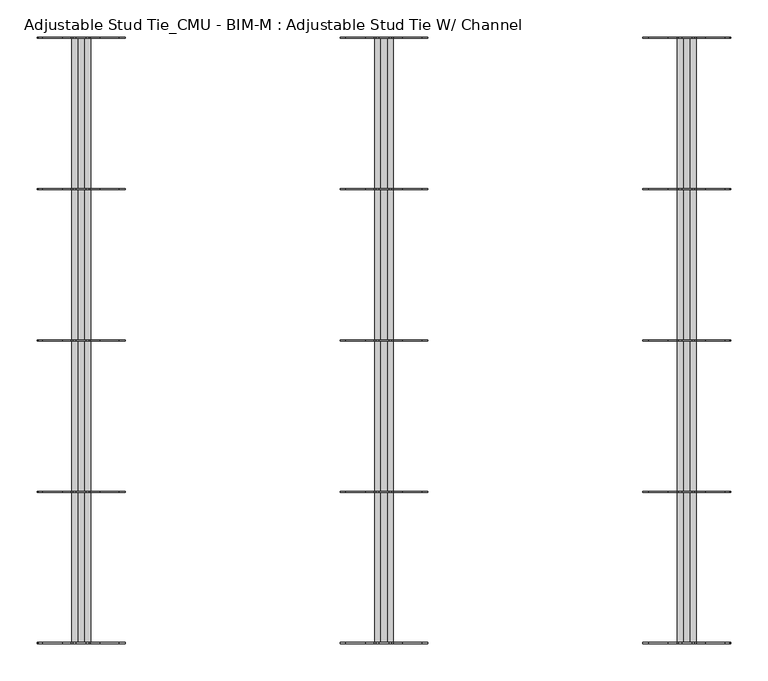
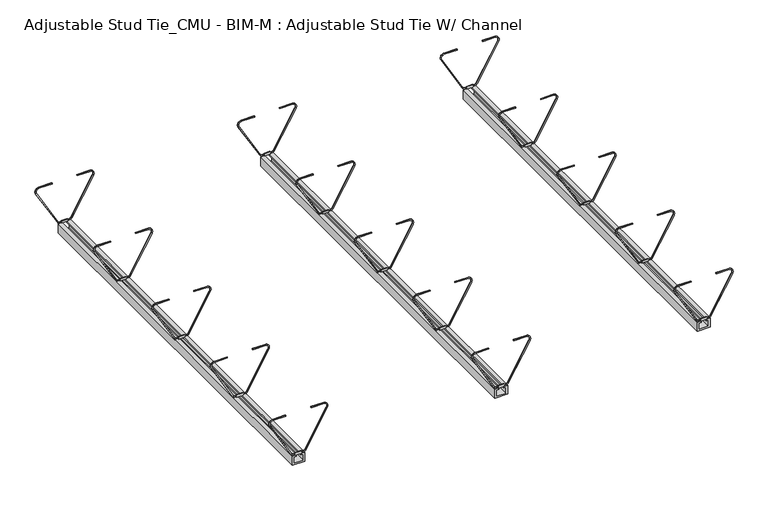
"""IFC4 building model written with IfcOpenShell, lengths in millimetres: proxy geometry, Adjustable Stud Tie_CMU - BIM-M : Adjustable Stud Tie W/ Channel."""

from ifc_helpers import new_model, si_unit, point, frame, frame_2d, origin, place, context, project, spatial, polyline, circle_curve, trimmed, segment, composite_curve, outline, extrude, source, transform, mapped, element, save


def adjustable_stud_tie_cmu_bim_m_adjustable_stud_tie_w_channel_7b78c944(model_context):
    return source(origin(), model_context, "Body", "SweptSolid", [
        extrude(outline(composite_curve([segment(polyline([(-115.6954737, 802.1080064), (-115.6954737, 806.45), (-117.475, 806.45), (-117.475, 819.15), (-115.6954737, 819.15), (-115.6954737, 823.4919936)]), True, "CONTINUOUS"), segment(trimmed(circle_curve(frame_2d((-111.2621335, 823.3975194)), 4.4343467), [point((-115.6954737, 823.4919936))], [point((-113.4793069, 827.2377763))], False, "CARTESIAN"), True, "CONTINUOUS"), segment(polyline([(-113.4793069, 827.2377763), (-38.3089403, 870.6374077)]), True, "CONTINUOUS"), segment(trimmed(circle_curve(frame_2d((-34.2420568, 863.5933588)), 8.133767), [point((-38.3089403, 870.6374077))], [point((-26.1197927, 864.0257847))], False, "CARTESIAN"), True, "CONTINUOUS"), segment(polyline([(-26.1197927, 864.0257847), (-26.1197927, 838.2), (-27.7072927, 838.2), (-27.7072927, 863.9812638)]), True, "CONTINUOUS"), segment(trimmed(circle_curve(frame_2d((-34.2420568, 863.5933588)), 6.546267), [point((-27.7072927, 863.9812638))], [point((-37.5151903, 869.2625923))], True, "CARTESIAN"), True, "CONTINUOUS"), segment(polyline([(-37.5151903, 869.2625923), (-112.6855569, 825.862961)]), True, "CONTINUOUS"), segment(trimmed(circle_curve(frame_2d((-111.2621335, 823.3975194)), 2.8468467), [point((-112.6855569, 825.862961))], [point((-114.1079737, 823.4732143))], True, "CARTESIAN"), True, "CONTINUOUS"), segment(polyline([(-114.1079737, 823.4732143), (-114.1079737, 819.15), (-112.7125, 819.15), (-112.7125, 806.45), (-114.1079737, 806.45), (-114.1079737, 802.1267857)]), True, "CONTINUOUS"), segment(trimmed(circle_curve(frame_2d((-111.2621335, 802.2024806)), 2.8468467), [point((-114.1079737, 802.1267857))], [point((-112.6855569, 799.737039))], True, "CARTESIAN"), True, "CONTINUOUS"), segment(polyline([(-112.6855569, 799.737039), (-37.5151903, 756.3374077)]), True, "CONTINUOUS"), segment(trimmed(circle_curve(frame_2d((-34.2420568, 762.0066412)), 6.546267), [point((-37.5151903, 756.3374077))], [point((-27.7072927, 761.6187362))], True, "CARTESIAN"), True, "CONTINUOUS"), segment(polyline([(-27.7072927, 761.6187362), (-27.7072927, 787.4), (-26.1197927, 787.4), (-26.1197927, 761.5742153)]), True, "CONTINUOUS"), segment(trimmed(circle_curve(frame_2d((-34.2420568, 762.0066412)), 8.133767), [point((-26.1197927, 761.5742153))], [point((-38.3089403, 754.9625923))], False, "CARTESIAN"), True, "CONTINUOUS"), segment(polyline([(-38.3089403, 754.9625923), (-113.4793069, 798.3622237)]), True, "CONTINUOUS"), segment(trimmed(circle_curve(frame_2d((-111.2621335, 802.2024806)), 4.4343467), [point((-113.4793069, 798.3622237))], [point((-115.6954737, 802.1080064))], False, "CARTESIAN"), True, "CONTINUOUS")], self_intersect=False)), frame((0.0, 812.8, 0.0), z_axis=(0.0, 1.0, 0.0), x_axis=(0.0, 0.0, 1.0)), (0.0, 0.0, 1.0), 1.5875),
        extrude(outline(composite_curve([segment(polyline([(-115.6954737, 802.1080064), (-115.6954737, 806.45), (-117.475, 806.45), (-117.475, 819.15), (-115.6954737, 819.15), (-115.6954737, 823.4919936)]), True, "CONTINUOUS"), segment(trimmed(circle_curve(frame_2d((-111.2621335, 823.3975194)), 4.4343467), [point((-115.6954737, 823.4919936))], [point((-113.4793069, 827.2377763))], False, "CARTESIAN"), True, "CONTINUOUS"), segment(polyline([(-113.4793069, 827.2377763), (-38.3089403, 870.6374077)]), True, "CONTINUOUS"), segment(trimmed(circle_curve(frame_2d((-34.2420568, 863.5933588)), 8.133767), [point((-38.3089403, 870.6374077))], [point((-26.1197927, 864.0257847))], False, "CARTESIAN"), True, "CONTINUOUS"), segment(polyline([(-26.1197927, 864.0257847), (-26.1197927, 838.2), (-27.7072927, 838.2), (-27.7072927, 863.9812638)]), True, "CONTINUOUS"), segment(trimmed(circle_curve(frame_2d((-34.2420568, 863.5933588)), 6.546267), [point((-27.7072927, 863.9812638))], [point((-37.5151903, 869.2625923))], True, "CARTESIAN"), True, "CONTINUOUS"), segment(polyline([(-37.5151903, 869.2625923), (-112.6855569, 825.862961)]), True, "CONTINUOUS"), segment(trimmed(circle_curve(frame_2d((-111.2621335, 823.3975194)), 2.8468467), [point((-112.6855569, 825.862961))], [point((-114.1079737, 823.4732143))], True, "CARTESIAN"), True, "CONTINUOUS"), segment(polyline([(-114.1079737, 823.4732143), (-114.1079737, 819.15), (-112.7125, 819.15), (-112.7125, 806.45), (-114.1079737, 806.45), (-114.1079737, 802.1267857)]), True, "CONTINUOUS"), segment(trimmed(circle_curve(frame_2d((-111.2621335, 802.2024806)), 2.8468467), [point((-114.1079737, 802.1267857))], [point((-112.6855569, 799.737039))], True, "CARTESIAN"), True, "CONTINUOUS"), segment(polyline([(-112.6855569, 799.737039), (-37.5151903, 756.3374077)]), True, "CONTINUOUS"), segment(trimmed(circle_curve(frame_2d((-34.2420568, 762.0066412)), 6.546267), [point((-37.5151903, 756.3374077))], [point((-27.7072927, 761.6187362))], True, "CARTESIAN"), True, "CONTINUOUS"), segment(polyline([(-27.7072927, 761.6187362), (-27.7072927, 787.4), (-26.1197927, 787.4), (-26.1197927, 761.5742153)]), True, "CONTINUOUS"), segment(trimmed(circle_curve(frame_2d((-34.2420568, 762.0066412)), 8.133767), [point((-26.1197927, 761.5742153))], [point((-38.3089403, 754.9625923))], False, "CARTESIAN"), True, "CONTINUOUS"), segment(polyline([(-38.3089403, 754.9625923), (-113.4793069, 798.3622237)]), True, "CONTINUOUS"), segment(trimmed(circle_curve(frame_2d((-111.2621335, 802.2024806)), 4.4343467), [point((-113.4793069, 798.3622237))], [point((-115.6954737, 802.1080064))], False, "CARTESIAN"), True, "CONTINUOUS")], self_intersect=False)), frame((0.0, 609.6, 0.0), z_axis=(0.0, 1.0, 0.0), x_axis=(0.0, 0.0, 1.0)), (0.0, 0.0, 1.0), 1.5875),
        extrude(outline(composite_curve([segment(polyline([(-115.6954737, 802.1080064), (-115.6954737, 806.45), (-117.475, 806.45), (-117.475, 819.15), (-115.6954737, 819.15), (-115.6954737, 823.4919936)]), True, "CONTINUOUS"), segment(trimmed(circle_curve(frame_2d((-111.2621335, 823.3975194)), 4.4343467), [point((-115.6954737, 823.4919936))], [point((-113.4793069, 827.2377763))], False, "CARTESIAN"), True, "CONTINUOUS"), segment(polyline([(-113.4793069, 827.2377763), (-38.3089403, 870.6374077)]), True, "CONTINUOUS"), segment(trimmed(circle_curve(frame_2d((-34.2420568, 863.5933588)), 8.133767), [point((-38.3089403, 870.6374077))], [point((-26.1197927, 864.0257847))], False, "CARTESIAN"), True, "CONTINUOUS"), segment(polyline([(-26.1197927, 864.0257847), (-26.1197927, 838.2), (-27.7072927, 838.2), (-27.7072927, 863.9812638)]), True, "CONTINUOUS"), segment(trimmed(circle_curve(frame_2d((-34.2420568, 863.5933588)), 6.546267), [point((-27.7072927, 863.9812638))], [point((-37.5151903, 869.2625923))], True, "CARTESIAN"), True, "CONTINUOUS"), segment(polyline([(-37.5151903, 869.2625923), (-112.6855569, 825.862961)]), True, "CONTINUOUS"), segment(trimmed(circle_curve(frame_2d((-111.2621335, 823.3975194)), 2.8468467), [point((-112.6855569, 825.862961))], [point((-114.1079737, 823.4732143))], True, "CARTESIAN"), True, "CONTINUOUS"), segment(polyline([(-114.1079737, 823.4732143), (-114.1079737, 819.15), (-112.7125, 819.15), (-112.7125, 806.45), (-114.1079737, 806.45), (-114.1079737, 802.1267857)]), True, "CONTINUOUS"), segment(trimmed(circle_curve(frame_2d((-111.2621335, 802.2024806)), 2.8468467), [point((-114.1079737, 802.1267857))], [point((-112.6855569, 799.737039))], True, "CARTESIAN"), True, "CONTINUOUS"), segment(polyline([(-112.6855569, 799.737039), (-37.5151903, 756.3374077)]), True, "CONTINUOUS"), segment(trimmed(circle_curve(frame_2d((-34.2420568, 762.0066412)), 6.546267), [point((-37.5151903, 756.3374077))], [point((-27.7072927, 761.6187362))], True, "CARTESIAN"), True, "CONTINUOUS"), segment(polyline([(-27.7072927, 761.6187362), (-27.7072927, 787.4), (-26.1197927, 787.4), (-26.1197927, 761.5742153)]), True, "CONTINUOUS"), segment(trimmed(circle_curve(frame_2d((-34.2420568, 762.0066412)), 8.133767), [point((-26.1197927, 761.5742153))], [point((-38.3089403, 754.9625923))], False, "CARTESIAN"), True, "CONTINUOUS"), segment(polyline([(-38.3089403, 754.9625923), (-113.4793069, 798.3622237)]), True, "CONTINUOUS"), segment(trimmed(circle_curve(frame_2d((-111.2621335, 802.2024806)), 4.4343467), [point((-113.4793069, 798.3622237))], [point((-115.6954737, 802.1080064))], False, "CARTESIAN"), True, "CONTINUOUS")], self_intersect=False)), frame((0.0, 406.4, 0.0), z_axis=(0.0, 1.0, 0.0), x_axis=(0.0, 0.0, 1.0)), (0.0, 0.0, 1.0), 1.5875),
        extrude(outline(composite_curve([segment(polyline([(-115.6954737, 802.1080064), (-115.6954737, 806.45), (-117.475, 806.45), (-117.475, 819.15), (-115.6954737, 819.15), (-115.6954737, 823.4919936)]), True, "CONTINUOUS"), segment(trimmed(circle_curve(frame_2d((-111.2621335, 823.3975194)), 4.4343467), [point((-115.6954737, 823.4919936))], [point((-113.4793069, 827.2377763))], False, "CARTESIAN"), True, "CONTINUOUS"), segment(polyline([(-113.4793069, 827.2377763), (-38.3089403, 870.6374077)]), True, "CONTINUOUS"), segment(trimmed(circle_curve(frame_2d((-34.2420568, 863.5933588)), 8.133767), [point((-38.3089403, 870.6374077))], [point((-26.1197927, 864.0257847))], False, "CARTESIAN"), True, "CONTINUOUS"), segment(polyline([(-26.1197927, 864.0257847), (-26.1197927, 838.2), (-27.7072927, 838.2), (-27.7072927, 863.9812638)]), True, "CONTINUOUS"), segment(trimmed(circle_curve(frame_2d((-34.2420568, 863.5933588)), 6.546267), [point((-27.7072927, 863.9812638))], [point((-37.5151903, 869.2625923))], True, "CARTESIAN"), True, "CONTINUOUS"), segment(polyline([(-37.5151903, 869.2625923), (-112.6855569, 825.862961)]), True, "CONTINUOUS"), segment(trimmed(circle_curve(frame_2d((-111.2621335, 823.3975194)), 2.8468467), [point((-112.6855569, 825.862961))], [point((-114.1079737, 823.4732143))], True, "CARTESIAN"), True, "CONTINUOUS"), segment(polyline([(-114.1079737, 823.4732143), (-114.1079737, 819.15), (-112.7125, 819.15), (-112.7125, 806.45), (-114.1079737, 806.45), (-114.1079737, 802.1267857)]), True, "CONTINUOUS"), segment(trimmed(circle_curve(frame_2d((-111.2621335, 802.2024806)), 2.8468467), [point((-114.1079737, 802.1267857))], [point((-112.6855569, 799.737039))], True, "CARTESIAN"), True, "CONTINUOUS"), segment(polyline([(-112.6855569, 799.737039), (-37.5151903, 756.3374077)]), True, "CONTINUOUS"), segment(trimmed(circle_curve(frame_2d((-34.2420568, 762.0066412)), 6.546267), [point((-37.5151903, 756.3374077))], [point((-27.7072927, 761.6187362))], True, "CARTESIAN"), True, "CONTINUOUS"), segment(polyline([(-27.7072927, 761.6187362), (-27.7072927, 787.4), (-26.1197927, 787.4), (-26.1197927, 761.5742153)]), True, "CONTINUOUS"), segment(trimmed(circle_curve(frame_2d((-34.2420568, 762.0066412)), 8.133767), [point((-26.1197927, 761.5742153))], [point((-38.3089403, 754.9625923))], False, "CARTESIAN"), True, "CONTINUOUS"), segment(polyline([(-38.3089403, 754.9625923), (-113.4793069, 798.3622237)]), True, "CONTINUOUS"), segment(trimmed(circle_curve(frame_2d((-111.2621335, 802.2024806)), 4.4343467), [point((-113.4793069, 798.3622237))], [point((-115.6954737, 802.1080064))], False, "CARTESIAN"), True, "CONTINUOUS")], self_intersect=False)), frame((0.0, 203.2, 0.0), z_axis=(0.0, 1.0, 0.0), x_axis=(0.0, 0.0, 1.0)), (0.0, 0.0, 1.0), 1.5875),
        extrude(outline(composite_curve([segment(polyline([(-115.6954737, 802.1080064), (-115.6954737, 806.45), (-117.475, 806.45), (-117.475, 819.15), (-115.6954737, 819.15), (-115.6954737, 823.4919936)]), True, "CONTINUOUS"), segment(trimmed(circle_curve(frame_2d((-111.2621335, 823.3975194)), 4.4343467), [point((-115.6954737, 823.4919936))], [point((-113.4793069, 827.2377763))], False, "CARTESIAN"), True, "CONTINUOUS"), segment(polyline([(-113.4793069, 827.2377763), (-38.3089403, 870.6374077)]), True, "CONTINUOUS"), segment(trimmed(circle_curve(frame_2d((-34.2420568, 863.5933588)), 8.133767), [point((-38.3089403, 870.6374077))], [point((-26.1197927, 864.0257847))], False, "CARTESIAN"), True, "CONTINUOUS"), segment(polyline([(-26.1197927, 864.0257847), (-26.1197927, 838.2), (-27.7072927, 838.2), (-27.7072927, 863.9812638)]), True, "CONTINUOUS"), segment(trimmed(circle_curve(frame_2d((-34.2420568, 863.5933588)), 6.546267), [point((-27.7072927, 863.9812638))], [point((-37.5151903, 869.2625923))], True, "CARTESIAN"), True, "CONTINUOUS"), segment(polyline([(-37.5151903, 869.2625923), (-112.6855569, 825.862961)]), True, "CONTINUOUS"), segment(trimmed(circle_curve(frame_2d((-111.2621335, 823.3975194)), 2.8468467), [point((-112.6855569, 825.862961))], [point((-114.1079737, 823.4732143))], True, "CARTESIAN"), True, "CONTINUOUS"), segment(polyline([(-114.1079737, 823.4732143), (-114.1079737, 819.15), (-112.7125, 819.15), (-112.7125, 806.45), (-114.1079737, 806.45), (-114.1079737, 802.1267857)]), True, "CONTINUOUS"), segment(trimmed(circle_curve(frame_2d((-111.2621335, 802.2024806)), 2.8468467), [point((-114.1079737, 802.1267857))], [point((-112.6855569, 799.737039))], True, "CARTESIAN"), True, "CONTINUOUS"), segment(polyline([(-112.6855569, 799.737039), (-37.5151903, 756.3374077)]), True, "CONTINUOUS"), segment(trimmed(circle_curve(frame_2d((-34.2420568, 762.0066412)), 6.546267), [point((-37.5151903, 756.3374077))], [point((-27.7072927, 761.6187362))], True, "CARTESIAN"), True, "CONTINUOUS"), segment(polyline([(-27.7072927, 761.6187362), (-27.7072927, 787.4), (-26.1197927, 787.4), (-26.1197927, 761.5742153)]), True, "CONTINUOUS"), segment(trimmed(circle_curve(frame_2d((-34.2420568, 762.0066412)), 8.133767), [point((-26.1197927, 761.5742153))], [point((-38.3089403, 754.9625923))], False, "CARTESIAN"), True, "CONTINUOUS"), segment(polyline([(-38.3089403, 754.9625923), (-113.4793069, 798.3622237)]), True, "CONTINUOUS"), segment(trimmed(circle_curve(frame_2d((-111.2621335, 802.2024806)), 4.4343467), [point((-113.4793069, 798.3622237))], [point((-115.6954737, 802.1080064))], False, "CARTESIAN"), True, "CONTINUOUS")], self_intersect=False)), frame((0.0, 0.0, 0.0), z_axis=(0.0, 1.0, 0.0), x_axis=(0.0, 0.0, 1.0)), (0.0, 0.0, 1.0), 1.5875),
        extrude(outline(polyline([(-136.525, 825.5), (-117.475, 825.5), (-117.475, 817.5669306), (-120.65, 817.5669306), (-120.65, 822.325), (-133.35, 822.325), (-133.35, 803.275), (-120.65, 803.275), (-120.65, 808.0330694), (-117.475, 808.0330694), (-117.475, 800.1), (-136.525, 800.1), (-136.525, 825.5)])), frame((0.0, 0.0, 0.0), z_axis=(0.0, 1.0, 0.0), x_axis=(0.0, 0.0, 1.0)), (0.0, 0.0, 1.0), 813.59375),
        extrude(outline(composite_curve([segment(polyline([(-115.6954737, 395.7080064), (-115.6954737, 400.05), (-117.475, 400.05), (-117.475, 412.75), (-115.6954737, 412.75), (-115.6954737, 417.0919936)]), True, "CONTINUOUS"), segment(trimmed(circle_curve(frame_2d((-111.2621335, 416.9975194)), 4.4343467), [point((-115.6954737, 417.0919936))], [point((-113.4793069, 420.8377763))], False, "CARTESIAN"), True, "CONTINUOUS"), segment(polyline([(-113.4793069, 420.8377763), (-38.3089403, 464.2374077)]), True, "CONTINUOUS"), segment(trimmed(circle_curve(frame_2d((-34.2420568, 457.1933588)), 8.133767), [point((-38.3089403, 464.2374077))], [point((-26.1197927, 457.6257847))], False, "CARTESIAN"), True, "CONTINUOUS"), segment(polyline([(-26.1197927, 457.6257847), (-26.1197927, 431.8), (-27.7072927, 431.8), (-27.7072927, 457.5812638)]), True, "CONTINUOUS"), segment(trimmed(circle_curve(frame_2d((-34.2420568, 457.1933588)), 6.546267), [point((-27.7072927, 457.5812638))], [point((-37.5151903, 462.8625923))], True, "CARTESIAN"), True, "CONTINUOUS"), segment(polyline([(-37.5151903, 462.8625923), (-112.6855569, 419.462961)]), True, "CONTINUOUS"), segment(trimmed(circle_curve(frame_2d((-111.2621335, 416.9975194)), 2.8468467), [point((-112.6855569, 419.462961))], [point((-114.1079737, 417.0732143))], True, "CARTESIAN"), True, "CONTINUOUS"), segment(polyline([(-114.1079737, 417.0732143), (-114.1079737, 412.75), (-112.7125, 412.75), (-112.7125, 400.05), (-114.1079737, 400.05), (-114.1079737, 395.7267857)]), True, "CONTINUOUS"), segment(trimmed(circle_curve(frame_2d((-111.2621335, 395.8024806)), 2.8468467), [point((-114.1079737, 395.7267857))], [point((-112.6855569, 393.337039))], True, "CARTESIAN"), True, "CONTINUOUS"), segment(polyline([(-112.6855569, 393.337039), (-37.5151903, 349.9374077)]), True, "CONTINUOUS"), segment(trimmed(circle_curve(frame_2d((-34.2420568, 355.6066412)), 6.546267), [point((-37.5151903, 349.9374077))], [point((-27.7072927, 355.2187362))], True, "CARTESIAN"), True, "CONTINUOUS"), segment(polyline([(-27.7072927, 355.2187362), (-27.7072927, 381.0), (-26.1197927, 381.0), (-26.1197927, 355.1742153)]), True, "CONTINUOUS"), segment(trimmed(circle_curve(frame_2d((-34.2420568, 355.6066412)), 8.133767), [point((-26.1197927, 355.1742153))], [point((-38.3089403, 348.5625923))], False, "CARTESIAN"), True, "CONTINUOUS"), segment(polyline([(-38.3089403, 348.5625923), (-113.4793069, 391.9622237)]), True, "CONTINUOUS"), segment(trimmed(circle_curve(frame_2d((-111.2621335, 395.8024806)), 4.4343467), [point((-113.4793069, 391.9622237))], [point((-115.6954737, 395.7080064))], False, "CARTESIAN"), True, "CONTINUOUS")], self_intersect=False)), frame((0.0, 812.8, 0.0), z_axis=(0.0, 1.0, 0.0), x_axis=(0.0, 0.0, 1.0)), (0.0, 0.0, 1.0), 1.5875),
        extrude(outline(composite_curve([segment(polyline([(-115.6954737, 395.7080064), (-115.6954737, 400.05), (-117.475, 400.05), (-117.475, 412.75), (-115.6954737, 412.75), (-115.6954737, 417.0919936)]), True, "CONTINUOUS"), segment(trimmed(circle_curve(frame_2d((-111.2621335, 416.9975194)), 4.4343467), [point((-115.6954737, 417.0919936))], [point((-113.4793069, 420.8377763))], False, "CARTESIAN"), True, "CONTINUOUS"), segment(polyline([(-113.4793069, 420.8377763), (-38.3089403, 464.2374077)]), True, "CONTINUOUS"), segment(trimmed(circle_curve(frame_2d((-34.2420568, 457.1933588)), 8.133767), [point((-38.3089403, 464.2374077))], [point((-26.1197927, 457.6257847))], False, "CARTESIAN"), True, "CONTINUOUS"), segment(polyline([(-26.1197927, 457.6257847), (-26.1197927, 431.8), (-27.7072927, 431.8), (-27.7072927, 457.5812638)]), True, "CONTINUOUS"), segment(trimmed(circle_curve(frame_2d((-34.2420568, 457.1933588)), 6.546267), [point((-27.7072927, 457.5812638))], [point((-37.5151903, 462.8625923))], True, "CARTESIAN"), True, "CONTINUOUS"), segment(polyline([(-37.5151903, 462.8625923), (-112.6855569, 419.462961)]), True, "CONTINUOUS"), segment(trimmed(circle_curve(frame_2d((-111.2621335, 416.9975194)), 2.8468467), [point((-112.6855569, 419.462961))], [point((-114.1079737, 417.0732143))], True, "CARTESIAN"), True, "CONTINUOUS"), segment(polyline([(-114.1079737, 417.0732143), (-114.1079737, 412.75), (-112.7125, 412.75), (-112.7125, 400.05), (-114.1079737, 400.05), (-114.1079737, 395.7267857)]), True, "CONTINUOUS"), segment(trimmed(circle_curve(frame_2d((-111.2621335, 395.8024806)), 2.8468467), [point((-114.1079737, 395.7267857))], [point((-112.6855569, 393.337039))], True, "CARTESIAN"), True, "CONTINUOUS"), segment(polyline([(-112.6855569, 393.337039), (-37.5151903, 349.9374077)]), True, "CONTINUOUS"), segment(trimmed(circle_curve(frame_2d((-34.2420568, 355.6066412)), 6.546267), [point((-37.5151903, 349.9374077))], [point((-27.7072927, 355.2187362))], True, "CARTESIAN"), True, "CONTINUOUS"), segment(polyline([(-27.7072927, 355.2187362), (-27.7072927, 381.0), (-26.1197927, 381.0), (-26.1197927, 355.1742153)]), True, "CONTINUOUS"), segment(trimmed(circle_curve(frame_2d((-34.2420568, 355.6066412)), 8.133767), [point((-26.1197927, 355.1742153))], [point((-38.3089403, 348.5625923))], False, "CARTESIAN"), True, "CONTINUOUS"), segment(polyline([(-38.3089403, 348.5625923), (-113.4793069, 391.9622237)]), True, "CONTINUOUS"), segment(trimmed(circle_curve(frame_2d((-111.2621335, 395.8024806)), 4.4343467), [point((-113.4793069, 391.9622237))], [point((-115.6954737, 395.7080064))], False, "CARTESIAN"), True, "CONTINUOUS")], self_intersect=False)), frame((0.0, 609.6, 0.0), z_axis=(0.0, 1.0, 0.0), x_axis=(0.0, 0.0, 1.0)), (0.0, 0.0, 1.0), 1.5875),
        extrude(outline(composite_curve([segment(polyline([(-115.6954737, 395.7080064), (-115.6954737, 400.05), (-117.475, 400.05), (-117.475, 412.75), (-115.6954737, 412.75), (-115.6954737, 417.0919936)]), True, "CONTINUOUS"), segment(trimmed(circle_curve(frame_2d((-111.2621335, 416.9975194)), 4.4343467), [point((-115.6954737, 417.0919936))], [point((-113.4793069, 420.8377763))], False, "CARTESIAN"), True, "CONTINUOUS"), segment(polyline([(-113.4793069, 420.8377763), (-38.3089403, 464.2374077)]), True, "CONTINUOUS"), segment(trimmed(circle_curve(frame_2d((-34.2420568, 457.1933588)), 8.133767), [point((-38.3089403, 464.2374077))], [point((-26.1197927, 457.6257847))], False, "CARTESIAN"), True, "CONTINUOUS"), segment(polyline([(-26.1197927, 457.6257847), (-26.1197927, 431.8), (-27.7072927, 431.8), (-27.7072927, 457.5812638)]), True, "CONTINUOUS"), segment(trimmed(circle_curve(frame_2d((-34.2420568, 457.1933588)), 6.546267), [point((-27.7072927, 457.5812638))], [point((-37.5151903, 462.8625923))], True, "CARTESIAN"), True, "CONTINUOUS"), segment(polyline([(-37.5151903, 462.8625923), (-112.6855569, 419.462961)]), True, "CONTINUOUS"), segment(trimmed(circle_curve(frame_2d((-111.2621335, 416.9975194)), 2.8468467), [point((-112.6855569, 419.462961))], [point((-114.1079737, 417.0732143))], True, "CARTESIAN"), True, "CONTINUOUS"), segment(polyline([(-114.1079737, 417.0732143), (-114.1079737, 412.75), (-112.7125, 412.75), (-112.7125, 400.05), (-114.1079737, 400.05), (-114.1079737, 395.7267857)]), True, "CONTINUOUS"), segment(trimmed(circle_curve(frame_2d((-111.2621335, 395.8024806)), 2.8468467), [point((-114.1079737, 395.7267857))], [point((-112.6855569, 393.337039))], True, "CARTESIAN"), True, "CONTINUOUS"), segment(polyline([(-112.6855569, 393.337039), (-37.5151903, 349.9374077)]), True, "CONTINUOUS"), segment(trimmed(circle_curve(frame_2d((-34.2420568, 355.6066412)), 6.546267), [point((-37.5151903, 349.9374077))], [point((-27.7072927, 355.2187362))], True, "CARTESIAN"), True, "CONTINUOUS"), segment(polyline([(-27.7072927, 355.2187362), (-27.7072927, 381.0), (-26.1197927, 381.0), (-26.1197927, 355.1742153)]), True, "CONTINUOUS"), segment(trimmed(circle_curve(frame_2d((-34.2420568, 355.6066412)), 8.133767), [point((-26.1197927, 355.1742153))], [point((-38.3089403, 348.5625923))], False, "CARTESIAN"), True, "CONTINUOUS"), segment(polyline([(-38.3089403, 348.5625923), (-113.4793069, 391.9622237)]), True, "CONTINUOUS"), segment(trimmed(circle_curve(frame_2d((-111.2621335, 395.8024806)), 4.4343467), [point((-113.4793069, 391.9622237))], [point((-115.6954737, 395.7080064))], False, "CARTESIAN"), True, "CONTINUOUS")], self_intersect=False)), frame((0.0, 406.4, 0.0), z_axis=(0.0, 1.0, 0.0), x_axis=(0.0, 0.0, 1.0)), (0.0, 0.0, 1.0), 1.5875),
        extrude(outline(composite_curve([segment(polyline([(-115.6954737, 395.7080064), (-115.6954737, 400.05), (-117.475, 400.05), (-117.475, 412.75), (-115.6954737, 412.75), (-115.6954737, 417.0919936)]), True, "CONTINUOUS"), segment(trimmed(circle_curve(frame_2d((-111.2621335, 416.9975194)), 4.4343467), [point((-115.6954737, 417.0919936))], [point((-113.4793069, 420.8377763))], False, "CARTESIAN"), True, "CONTINUOUS"), segment(polyline([(-113.4793069, 420.8377763), (-38.3089403, 464.2374077)]), True, "CONTINUOUS"), segment(trimmed(circle_curve(frame_2d((-34.2420568, 457.1933588)), 8.133767), [point((-38.3089403, 464.2374077))], [point((-26.1197927, 457.6257847))], False, "CARTESIAN"), True, "CONTINUOUS"), segment(polyline([(-26.1197927, 457.6257847), (-26.1197927, 431.8), (-27.7072927, 431.8), (-27.7072927, 457.5812638)]), True, "CONTINUOUS"), segment(trimmed(circle_curve(frame_2d((-34.2420568, 457.1933588)), 6.546267), [point((-27.7072927, 457.5812638))], [point((-37.5151903, 462.8625923))], True, "CARTESIAN"), True, "CONTINUOUS"), segment(polyline([(-37.5151903, 462.8625923), (-112.6855569, 419.462961)]), True, "CONTINUOUS"), segment(trimmed(circle_curve(frame_2d((-111.2621335, 416.9975194)), 2.8468467), [point((-112.6855569, 419.462961))], [point((-114.1079737, 417.0732143))], True, "CARTESIAN"), True, "CONTINUOUS"), segment(polyline([(-114.1079737, 417.0732143), (-114.1079737, 412.75), (-112.7125, 412.75), (-112.7125, 400.05), (-114.1079737, 400.05), (-114.1079737, 395.7267857)]), True, "CONTINUOUS"), segment(trimmed(circle_curve(frame_2d((-111.2621335, 395.8024806)), 2.8468467), [point((-114.1079737, 395.7267857))], [point((-112.6855569, 393.337039))], True, "CARTESIAN"), True, "CONTINUOUS"), segment(polyline([(-112.6855569, 393.337039), (-37.5151903, 349.9374077)]), True, "CONTINUOUS"), segment(trimmed(circle_curve(frame_2d((-34.2420568, 355.6066412)), 6.546267), [point((-37.5151903, 349.9374077))], [point((-27.7072927, 355.2187362))], True, "CARTESIAN"), True, "CONTINUOUS"), segment(polyline([(-27.7072927, 355.2187362), (-27.7072927, 381.0), (-26.1197927, 381.0), (-26.1197927, 355.1742153)]), True, "CONTINUOUS"), segment(trimmed(circle_curve(frame_2d((-34.2420568, 355.6066412)), 8.133767), [point((-26.1197927, 355.1742153))], [point((-38.3089403, 348.5625923))], False, "CARTESIAN"), True, "CONTINUOUS"), segment(polyline([(-38.3089403, 348.5625923), (-113.4793069, 391.9622237)]), True, "CONTINUOUS"), segment(trimmed(circle_curve(frame_2d((-111.2621335, 395.8024806)), 4.4343467), [point((-113.4793069, 391.9622237))], [point((-115.6954737, 395.7080064))], False, "CARTESIAN"), True, "CONTINUOUS")], self_intersect=False)), frame((0.0, 203.2, 0.0), z_axis=(0.0, 1.0, 0.0), x_axis=(0.0, 0.0, 1.0)), (0.0, 0.0, 1.0), 1.5875),
        extrude(outline(composite_curve([segment(polyline([(-115.6954737, 395.7080064), (-115.6954737, 400.05), (-117.475, 400.05), (-117.475, 412.75), (-115.6954737, 412.75), (-115.6954737, 417.0919936)]), True, "CONTINUOUS"), segment(trimmed(circle_curve(frame_2d((-111.2621335, 416.9975194)), 4.4343467), [point((-115.6954737, 417.0919936))], [point((-113.4793069, 420.8377763))], False, "CARTESIAN"), True, "CONTINUOUS"), segment(polyline([(-113.4793069, 420.8377763), (-38.3089403, 464.2374077)]), True, "CONTINUOUS"), segment(trimmed(circle_curve(frame_2d((-34.2420568, 457.1933588)), 8.133767), [point((-38.3089403, 464.2374077))], [point((-26.1197927, 457.6257847))], False, "CARTESIAN"), True, "CONTINUOUS"), segment(polyline([(-26.1197927, 457.6257847), (-26.1197927, 431.8), (-27.7072927, 431.8), (-27.7072927, 457.5812638)]), True, "CONTINUOUS"), segment(trimmed(circle_curve(frame_2d((-34.2420568, 457.1933588)), 6.546267), [point((-27.7072927, 457.5812638))], [point((-37.5151903, 462.8625923))], True, "CARTESIAN"), True, "CONTINUOUS"), segment(polyline([(-37.5151903, 462.8625923), (-112.6855569, 419.462961)]), True, "CONTINUOUS"), segment(trimmed(circle_curve(frame_2d((-111.2621335, 416.9975194)), 2.8468467), [point((-112.6855569, 419.462961))], [point((-114.1079737, 417.0732143))], True, "CARTESIAN"), True, "CONTINUOUS"), segment(polyline([(-114.1079737, 417.0732143), (-114.1079737, 412.75), (-112.7125, 412.75), (-112.7125, 400.05), (-114.1079737, 400.05), (-114.1079737, 395.7267857)]), True, "CONTINUOUS"), segment(trimmed(circle_curve(frame_2d((-111.2621335, 395.8024806)), 2.8468467), [point((-114.1079737, 395.7267857))], [point((-112.6855569, 393.337039))], True, "CARTESIAN"), True, "CONTINUOUS"), segment(polyline([(-112.6855569, 393.337039), (-37.5151903, 349.9374077)]), True, "CONTINUOUS"), segment(trimmed(circle_curve(frame_2d((-34.2420568, 355.6066412)), 6.546267), [point((-37.5151903, 349.9374077))], [point((-27.7072927, 355.2187362))], True, "CARTESIAN"), True, "CONTINUOUS"), segment(polyline([(-27.7072927, 355.2187362), (-27.7072927, 381.0), (-26.1197927, 381.0), (-26.1197927, 355.1742153)]), True, "CONTINUOUS"), segment(trimmed(circle_curve(frame_2d((-34.2420568, 355.6066412)), 8.133767), [point((-26.1197927, 355.1742153))], [point((-38.3089403, 348.5625923))], False, "CARTESIAN"), True, "CONTINUOUS"), segment(polyline([(-38.3089403, 348.5625923), (-113.4793069, 391.9622237)]), True, "CONTINUOUS"), segment(trimmed(circle_curve(frame_2d((-111.2621335, 395.8024806)), 4.4343467), [point((-113.4793069, 391.9622237))], [point((-115.6954737, 395.7080064))], False, "CARTESIAN"), True, "CONTINUOUS")], self_intersect=False)), frame((0.0, 0.0, 0.0), z_axis=(0.0, 1.0, 0.0), x_axis=(0.0, 0.0, 1.0)), (0.0, 0.0, 1.0), 1.5875),
        extrude(outline(polyline([(-136.525, 419.1), (-117.475, 419.1), (-117.475, 411.1669306), (-120.65, 411.1669306), (-120.65, 415.925), (-133.35, 415.925), (-133.35, 396.875), (-120.65, 396.875), (-120.65, 401.6330694), (-117.475, 401.6330694), (-117.475, 393.7), (-136.525, 393.7), (-136.525, 419.1)])), frame((0.0, 0.0, 0.0), z_axis=(0.0, 1.0, 0.0), x_axis=(0.0, 0.0, 1.0)), (0.0, 0.0, 1.0), 813.59375),
        extrude(outline(composite_curve([segment(polyline([(-115.6954737, -10.6919936), (-115.6954737, -6.35), (-117.475, -6.35), (-117.475, 6.35), (-115.6954737, 6.35), (-115.6954737, 10.6919936)]), True, "CONTINUOUS"), segment(trimmed(circle_curve(frame_2d((-111.2621335, 10.5975194)), 4.4343467), [point((-115.6954737, 10.6919936))], [point((-113.4793069, 14.4377763))], False, "CARTESIAN"), True, "CONTINUOUS"), segment(polyline([(-113.4793069, 14.4377763), (-38.3089403, 57.8374077)]), True, "CONTINUOUS"), segment(trimmed(circle_curve(frame_2d((-34.2420568, 50.7933588)), 8.133767), [point((-38.3089403, 57.8374077))], [point((-26.1197927, 51.2257847))], False, "CARTESIAN"), True, "CONTINUOUS"), segment(polyline([(-26.1197927, 51.2257847), (-26.1197927, 25.4), (-27.7072927, 25.4), (-27.7072927, 51.1812638)]), True, "CONTINUOUS"), segment(trimmed(circle_curve(frame_2d((-34.2420568, 50.7933588)), 6.546267), [point((-27.7072927, 51.1812638))], [point((-37.5151903, 56.4625923))], True, "CARTESIAN"), True, "CONTINUOUS"), segment(polyline([(-37.5151903, 56.4625923), (-112.6855569, 13.062961)]), True, "CONTINUOUS"), segment(trimmed(circle_curve(frame_2d((-111.2621335, 10.5975194)), 2.8468467), [point((-112.6855569, 13.062961))], [point((-114.1079737, 10.6732143))], True, "CARTESIAN"), True, "CONTINUOUS"), segment(polyline([(-114.1079737, 10.6732143), (-114.1079737, 6.35), (-112.7125, 6.35), (-112.7125, -6.35), (-114.1079737, -6.35), (-114.1079737, -10.6732143)]), True, "CONTINUOUS"), segment(trimmed(circle_curve(frame_2d((-111.2621335, -10.5975194)), 2.8468467), [point((-114.1079737, -10.6732143))], [point((-112.6855569, -13.062961))], True, "CARTESIAN"), True, "CONTINUOUS"), segment(polyline([(-112.6855569, -13.062961), (-37.5151903, -56.4625923)]), True, "CONTINUOUS"), segment(trimmed(circle_curve(frame_2d((-34.2420568, -50.7933588)), 6.546267), [point((-37.5151903, -56.4625923))], [point((-27.7072927, -51.1812638))], True, "CARTESIAN"), True, "CONTINUOUS"), segment(polyline([(-27.7072927, -51.1812638), (-27.7072927, -25.4), (-26.1197927, -25.4), (-26.1197927, -51.2257847)]), True, "CONTINUOUS"), segment(trimmed(circle_curve(frame_2d((-34.2420568, -50.7933588)), 8.133767), [point((-26.1197927, -51.2257847))], [point((-38.3089403, -57.8374077))], False, "CARTESIAN"), True, "CONTINUOUS"), segment(polyline([(-38.3089403, -57.8374077), (-113.4793069, -14.4377763)]), True, "CONTINUOUS"), segment(trimmed(circle_curve(frame_2d((-111.2621335, -10.5975194)), 4.4343467), [point((-113.4793069, -14.4377763))], [point((-115.6954737, -10.6919936))], False, "CARTESIAN"), True, "CONTINUOUS")], self_intersect=False)), frame((0.0, 812.8, 0.0), z_axis=(0.0, 1.0, 0.0), x_axis=(0.0, 0.0, 1.0)), (0.0, 0.0, 1.0), 1.5875),
        extrude(outline(composite_curve([segment(polyline([(-115.6954737, -10.6919936), (-115.6954737, -6.35), (-117.475, -6.35), (-117.475, 6.35), (-115.6954737, 6.35), (-115.6954737, 10.6919936)]), True, "CONTINUOUS"), segment(trimmed(circle_curve(frame_2d((-111.2621335, 10.5975194)), 4.4343467), [point((-115.6954737, 10.6919936))], [point((-113.4793069, 14.4377763))], False, "CARTESIAN"), True, "CONTINUOUS"), segment(polyline([(-113.4793069, 14.4377763), (-38.3089403, 57.8374077)]), True, "CONTINUOUS"), segment(trimmed(circle_curve(frame_2d((-34.2420568, 50.7933588)), 8.133767), [point((-38.3089403, 57.8374077))], [point((-26.1197927, 51.2257847))], False, "CARTESIAN"), True, "CONTINUOUS"), segment(polyline([(-26.1197927, 51.2257847), (-26.1197927, 25.4), (-27.7072927, 25.4), (-27.7072927, 51.1812638)]), True, "CONTINUOUS"), segment(trimmed(circle_curve(frame_2d((-34.2420568, 50.7933588)), 6.546267), [point((-27.7072927, 51.1812638))], [point((-37.5151903, 56.4625923))], True, "CARTESIAN"), True, "CONTINUOUS"), segment(polyline([(-37.5151903, 56.4625923), (-112.6855569, 13.062961)]), True, "CONTINUOUS"), segment(trimmed(circle_curve(frame_2d((-111.2621335, 10.5975194)), 2.8468467), [point((-112.6855569, 13.062961))], [point((-114.1079737, 10.6732143))], True, "CARTESIAN"), True, "CONTINUOUS"), segment(polyline([(-114.1079737, 10.6732143), (-114.1079737, 6.35), (-112.7125, 6.35), (-112.7125, -6.35), (-114.1079737, -6.35), (-114.1079737, -10.6732143)]), True, "CONTINUOUS"), segment(trimmed(circle_curve(frame_2d((-111.2621335, -10.5975194)), 2.8468467), [point((-114.1079737, -10.6732143))], [point((-112.6855569, -13.062961))], True, "CARTESIAN"), True, "CONTINUOUS"), segment(polyline([(-112.6855569, -13.062961), (-37.5151903, -56.4625923)]), True, "CONTINUOUS"), segment(trimmed(circle_curve(frame_2d((-34.2420568, -50.7933588)), 6.546267), [point((-37.5151903, -56.4625923))], [point((-27.7072927, -51.1812638))], True, "CARTESIAN"), True, "CONTINUOUS"), segment(polyline([(-27.7072927, -51.1812638), (-27.7072927, -25.4), (-26.1197927, -25.4), (-26.1197927, -51.2257847)]), True, "CONTINUOUS"), segment(trimmed(circle_curve(frame_2d((-34.2420568, -50.7933588)), 8.133767), [point((-26.1197927, -51.2257847))], [point((-38.3089403, -57.8374077))], False, "CARTESIAN"), True, "CONTINUOUS"), segment(polyline([(-38.3089403, -57.8374077), (-113.4793069, -14.4377763)]), True, "CONTINUOUS"), segment(trimmed(circle_curve(frame_2d((-111.2621335, -10.5975194)), 4.4343467), [point((-113.4793069, -14.4377763))], [point((-115.6954737, -10.6919936))], False, "CARTESIAN"), True, "CONTINUOUS")], self_intersect=False)), frame((0.0, 609.6, 0.0), z_axis=(0.0, 1.0, 0.0), x_axis=(0.0, 0.0, 1.0)), (0.0, 0.0, 1.0), 1.5875),
        extrude(outline(composite_curve([segment(polyline([(-115.6954737, -10.6919936), (-115.6954737, -6.35), (-117.475, -6.35), (-117.475, 6.35), (-115.6954737, 6.35), (-115.6954737, 10.6919936)]), True, "CONTINUOUS"), segment(trimmed(circle_curve(frame_2d((-111.2621335, 10.5975194)), 4.4343467), [point((-115.6954737, 10.6919936))], [point((-113.4793069, 14.4377763))], False, "CARTESIAN"), True, "CONTINUOUS"), segment(polyline([(-113.4793069, 14.4377763), (-38.3089403, 57.8374077)]), True, "CONTINUOUS"), segment(trimmed(circle_curve(frame_2d((-34.2420568, 50.7933588)), 8.133767), [point((-38.3089403, 57.8374077))], [point((-26.1197927, 51.2257847))], False, "CARTESIAN"), True, "CONTINUOUS"), segment(polyline([(-26.1197927, 51.2257847), (-26.1197927, 25.4), (-27.7072927, 25.4), (-27.7072927, 51.1812638)]), True, "CONTINUOUS"), segment(trimmed(circle_curve(frame_2d((-34.2420568, 50.7933588)), 6.546267), [point((-27.7072927, 51.1812638))], [point((-37.5151903, 56.4625923))], True, "CARTESIAN"), True, "CONTINUOUS"), segment(polyline([(-37.5151903, 56.4625923), (-112.6855569, 13.062961)]), True, "CONTINUOUS"), segment(trimmed(circle_curve(frame_2d((-111.2621335, 10.5975194)), 2.8468467), [point((-112.6855569, 13.062961))], [point((-114.1079737, 10.6732143))], True, "CARTESIAN"), True, "CONTINUOUS"), segment(polyline([(-114.1079737, 10.6732143), (-114.1079737, 6.35), (-112.7125, 6.35), (-112.7125, -6.35), (-114.1079737, -6.35), (-114.1079737, -10.6732143)]), True, "CONTINUOUS"), segment(trimmed(circle_curve(frame_2d((-111.2621335, -10.5975194)), 2.8468467), [point((-114.1079737, -10.6732143))], [point((-112.6855569, -13.062961))], True, "CARTESIAN"), True, "CONTINUOUS"), segment(polyline([(-112.6855569, -13.062961), (-37.5151903, -56.4625923)]), True, "CONTINUOUS"), segment(trimmed(circle_curve(frame_2d((-34.2420568, -50.7933588)), 6.546267), [point((-37.5151903, -56.4625923))], [point((-27.7072927, -51.1812638))], True, "CARTESIAN"), True, "CONTINUOUS"), segment(polyline([(-27.7072927, -51.1812638), (-27.7072927, -25.4), (-26.1197927, -25.4), (-26.1197927, -51.2257847)]), True, "CONTINUOUS"), segment(trimmed(circle_curve(frame_2d((-34.2420568, -50.7933588)), 8.133767), [point((-26.1197927, -51.2257847))], [point((-38.3089403, -57.8374077))], False, "CARTESIAN"), True, "CONTINUOUS"), segment(polyline([(-38.3089403, -57.8374077), (-113.4793069, -14.4377763)]), True, "CONTINUOUS"), segment(trimmed(circle_curve(frame_2d((-111.2621335, -10.5975194)), 4.4343467), [point((-113.4793069, -14.4377763))], [point((-115.6954737, -10.6919936))], False, "CARTESIAN"), True, "CONTINUOUS")], self_intersect=False)), frame((0.0, 406.4, 0.0), z_axis=(0.0, 1.0, 0.0), x_axis=(0.0, 0.0, 1.0)), (0.0, 0.0, 1.0), 1.5875),
        extrude(outline(composite_curve([segment(polyline([(-115.6954737, -10.6919936), (-115.6954737, -6.35), (-117.475, -6.35), (-117.475, 6.35), (-115.6954737, 6.35), (-115.6954737, 10.6919936)]), True, "CONTINUOUS"), segment(trimmed(circle_curve(frame_2d((-111.2621335, 10.5975194)), 4.4343467), [point((-115.6954737, 10.6919936))], [point((-113.4793069, 14.4377763))], False, "CARTESIAN"), True, "CONTINUOUS"), segment(polyline([(-113.4793069, 14.4377763), (-38.3089403, 57.8374077)]), True, "CONTINUOUS"), segment(trimmed(circle_curve(frame_2d((-34.2420568, 50.7933588)), 8.133767), [point((-38.3089403, 57.8374077))], [point((-26.1197927, 51.2257847))], False, "CARTESIAN"), True, "CONTINUOUS"), segment(polyline([(-26.1197927, 51.2257847), (-26.1197927, 25.4), (-27.7072927, 25.4), (-27.7072927, 51.1812638)]), True, "CONTINUOUS"), segment(trimmed(circle_curve(frame_2d((-34.2420568, 50.7933588)), 6.546267), [point((-27.7072927, 51.1812638))], [point((-37.5151903, 56.4625923))], True, "CARTESIAN"), True, "CONTINUOUS"), segment(polyline([(-37.5151903, 56.4625923), (-112.6855569, 13.062961)]), True, "CONTINUOUS"), segment(trimmed(circle_curve(frame_2d((-111.2621335, 10.5975194)), 2.8468467), [point((-112.6855569, 13.062961))], [point((-114.1079737, 10.6732143))], True, "CARTESIAN"), True, "CONTINUOUS"), segment(polyline([(-114.1079737, 10.6732143), (-114.1079737, 6.35), (-112.7125, 6.35), (-112.7125, -6.35), (-114.1079737, -6.35), (-114.1079737, -10.6732143)]), True, "CONTINUOUS"), segment(trimmed(circle_curve(frame_2d((-111.2621335, -10.5975194)), 2.8468467), [point((-114.1079737, -10.6732143))], [point((-112.6855569, -13.062961))], True, "CARTESIAN"), True, "CONTINUOUS"), segment(polyline([(-112.6855569, -13.062961), (-37.5151903, -56.4625923)]), True, "CONTINUOUS"), segment(trimmed(circle_curve(frame_2d((-34.2420568, -50.7933588)), 6.546267), [point((-37.5151903, -56.4625923))], [point((-27.7072927, -51.1812638))], True, "CARTESIAN"), True, "CONTINUOUS"), segment(polyline([(-27.7072927, -51.1812638), (-27.7072927, -25.4), (-26.1197927, -25.4), (-26.1197927, -51.2257847)]), True, "CONTINUOUS"), segment(trimmed(circle_curve(frame_2d((-34.2420568, -50.7933588)), 8.133767), [point((-26.1197927, -51.2257847))], [point((-38.3089403, -57.8374077))], False, "CARTESIAN"), True, "CONTINUOUS"), segment(polyline([(-38.3089403, -57.8374077), (-113.4793069, -14.4377763)]), True, "CONTINUOUS"), segment(trimmed(circle_curve(frame_2d((-111.2621335, -10.5975194)), 4.4343467), [point((-113.4793069, -14.4377763))], [point((-115.6954737, -10.6919936))], False, "CARTESIAN"), True, "CONTINUOUS")], self_intersect=False)), frame((0.0, 203.2, 0.0), z_axis=(0.0, 1.0, 0.0), x_axis=(0.0, 0.0, 1.0)), (0.0, 0.0, 1.0), 1.5875),
        extrude(outline(composite_curve([segment(polyline([(-115.6954737, -10.6919936), (-115.6954737, -6.35), (-117.475, -6.35), (-117.475, 6.35), (-115.6954737, 6.35), (-115.6954737, 10.6919936)]), True, "CONTINUOUS"), segment(trimmed(circle_curve(frame_2d((-111.2621335, 10.5975194)), 4.4343467), [point((-115.6954737, 10.6919936))], [point((-113.4793069, 14.4377763))], False, "CARTESIAN"), True, "CONTINUOUS"), segment(polyline([(-113.4793069, 14.4377763), (-38.3089403, 57.8374077)]), True, "CONTINUOUS"), segment(trimmed(circle_curve(frame_2d((-34.2420568, 50.7933588)), 8.133767), [point((-38.3089403, 57.8374077))], [point((-26.1197927, 51.2257847))], False, "CARTESIAN"), True, "CONTINUOUS"), segment(polyline([(-26.1197927, 51.2257847), (-26.1197927, 25.4), (-27.7072927, 25.4), (-27.7072927, 51.1812638)]), True, "CONTINUOUS"), segment(trimmed(circle_curve(frame_2d((-34.2420568, 50.7933588)), 6.546267), [point((-27.7072927, 51.1812638))], [point((-37.5151903, 56.4625923))], True, "CARTESIAN"), True, "CONTINUOUS"), segment(polyline([(-37.5151903, 56.4625923), (-112.6855569, 13.062961)]), True, "CONTINUOUS"), segment(trimmed(circle_curve(frame_2d((-111.2621335, 10.5975194)), 2.8468467), [point((-112.6855569, 13.062961))], [point((-114.1079737, 10.6732143))], True, "CARTESIAN"), True, "CONTINUOUS"), segment(polyline([(-114.1079737, 10.6732143), (-114.1079737, 6.35), (-112.7125, 6.35), (-112.7125, -6.35), (-114.1079737, -6.35), (-114.1079737, -10.6732143)]), True, "CONTINUOUS"), segment(trimmed(circle_curve(frame_2d((-111.2621335, -10.5975194)), 2.8468467), [point((-114.1079737, -10.6732143))], [point((-112.6855569, -13.062961))], True, "CARTESIAN"), True, "CONTINUOUS"), segment(polyline([(-112.6855569, -13.062961), (-37.5151903, -56.4625923)]), True, "CONTINUOUS"), segment(trimmed(circle_curve(frame_2d((-34.2420568, -50.7933588)), 6.546267), [point((-37.5151903, -56.4625923))], [point((-27.7072927, -51.1812638))], True, "CARTESIAN"), True, "CONTINUOUS"), segment(polyline([(-27.7072927, -51.1812638), (-27.7072927, -25.4), (-26.1197927, -25.4), (-26.1197927, -51.2257847)]), True, "CONTINUOUS"), segment(trimmed(circle_curve(frame_2d((-34.2420568, -50.7933588)), 8.133767), [point((-26.1197927, -51.2257847))], [point((-38.3089403, -57.8374077))], False, "CARTESIAN"), True, "CONTINUOUS"), segment(polyline([(-38.3089403, -57.8374077), (-113.4793069, -14.4377763)]), True, "CONTINUOUS"), segment(trimmed(circle_curve(frame_2d((-111.2621335, -10.5975194)), 4.4343467), [point((-113.4793069, -14.4377763))], [point((-115.6954737, -10.6919936))], False, "CARTESIAN"), True, "CONTINUOUS")], self_intersect=False)), frame((0.0, 0.0, 0.0), z_axis=(0.0, 1.0, 0.0), x_axis=(0.0, 0.0, 1.0)), (0.0, 0.0, 1.0), 1.5875),
        extrude(outline(polyline([(-136.525, 12.7), (-117.475, 12.7), (-117.475, 4.7669306), (-120.65, 4.7669306), (-120.65, 9.525), (-133.35, 9.525), (-133.35, -9.525), (-120.65, -9.525), (-120.65, -4.7669306), (-117.475, -4.7669306), (-117.475, -12.7), (-136.525, -12.7), (-136.525, 12.7)])), frame((0.0, 0.0, 0.0), z_axis=(0.0, 1.0, 0.0), x_axis=(0.0, 0.0, 1.0)), (0.0, 0.0, 1.0), 813.59375),
    ])


if __name__ == "__main__":
    model = new_model("IFC4")
    model_context = context("Model", 3, world=origin())
    ifc_project = project(units=[si_unit("LENGTHUNIT", "METRE", prefix="MILLI")], contexts=[model_context])
    site = spatial("IfcSite", under=ifc_project)
    building = spatial("IfcBuilding", under=site)
    placement = place(None, origin())
    adjustable_stud_tie_cmu_bim_m_adjustable_stud_tie_w_channel_shape = adjustable_stud_tie_cmu_bim_m_adjustable_stud_tie_w_channel_7b78c944(model_context)
    element("IfcBuildingElementProxy", 1, Name="Adjustable Stud Tie_CMU - BIM-M : Adjustable Stud Tie W/ Channel", ObjectType="Adjustable Stud Tie_CMU - BIM-M : Adjustable Stud Tie W/ Channel", at=placement, inside=building, context=model_context, shape_type="MappedRepresentation", body=[
        mapped(adjustable_stud_tie_cmu_bim_m_adjustable_stud_tie_w_channel_shape, transform((0.0, 0.0, 0.0), x_axis=(1.0, 0.0, 0.0), y_axis=(0.0, 1.0, 0.0), z_axis=(0.0, 0.0, 1.0))),
    ])
    save(model, "model.ifc")
